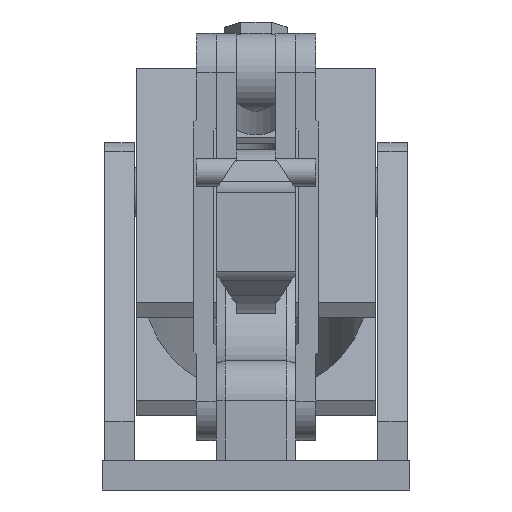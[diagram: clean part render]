
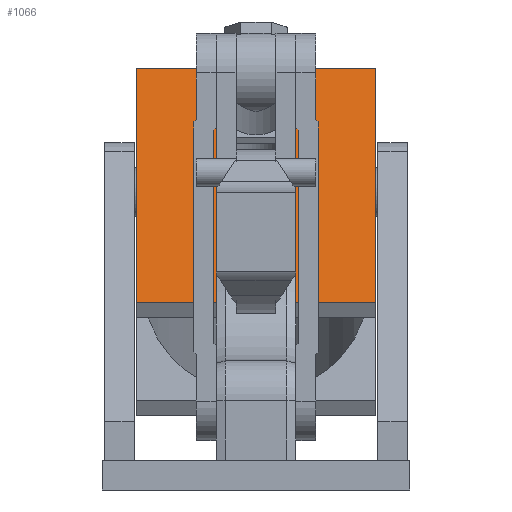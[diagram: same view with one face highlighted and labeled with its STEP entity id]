
A CAD part, left-side view. The second image highlights one B-rep face of the part: STEP entity #1066.
In plain terms, the highlighted planar face has unit normal (-0.981, 0, 0.194).
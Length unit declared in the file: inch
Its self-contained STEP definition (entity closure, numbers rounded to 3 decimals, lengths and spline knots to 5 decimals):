
#241=LINE('',#5551,#554);
#242=LINE('',#5554,#555);
#243=LINE('',#5556,#556);
#244=LINE('',#5558,#557);
#554=VECTOR('',#4535,1.);
#555=VECTOR('',#4536,1.);
#556=VECTOR('',#4537,1.);
#557=VECTOR('',#4538,1.);
#900=FACE_BOUND('',#1645,.T.);
#1066=ADVANCED_FACE('',(#1405,#900),#1242,.F.);
#1242=PLANE('',#3870);
#1405=FACE_OUTER_BOUND('',#1644,.T.);
#1644=EDGE_LOOP('',(#2211,#2212,#2213,#2214));
#1645=EDGE_LOOP('',(#2215));
#2211=ORIENTED_EDGE('',*,*,#3281,.F.);
#2212=ORIENTED_EDGE('',*,*,#3282,.F.);
#2213=ORIENTED_EDGE('',*,*,#3283,.F.);
#2214=ORIENTED_EDGE('',*,*,#3284,.F.);
#2215=ORIENTED_EDGE('',*,*,#3285,.F.);
#2892=VERTEX_POINT('',#5552);
#2893=VERTEX_POINT('',#5553);
#2894=VERTEX_POINT('',#5555);
#2895=VERTEX_POINT('',#5557);
#2896=VERTEX_POINT('',#5560);
#3281=EDGE_CURVE('',#2892,#2893,#241,.T.);
#3282=EDGE_CURVE('',#2894,#2892,#242,.T.);
#3283=EDGE_CURVE('',#2895,#2894,#243,.T.);
#3284=EDGE_CURVE('',#2893,#2895,#244,.T.);
#3285=EDGE_CURVE('',#2896,#2896,#3623,.T.);
#3623=CIRCLE('',#3869,0.3125);
#3869=AXIS2_PLACEMENT_3D('',#5559,#4539,#4540);
#3870=AXIS2_PLACEMENT_3D('',#5561,#4541,#4542);
#4535=DIRECTION('',(0.,-1.,0.));
#4536=DIRECTION('',(0.194,0.,0.981));
#4537=DIRECTION('',(0.,1.,0.));
#4538=DIRECTION('',(-0.194,0.,-0.981));
#4539=DIRECTION('',(-0.981,0.,0.194));
#4540=DIRECTION('',(0.,-1.,0.));
#4541=DIRECTION('',(0.981,0.,-0.194));
#4542=DIRECTION('',(0.,1.,0.));
#5551=CARTESIAN_POINT('',(7.60706,2.87502,5.30737));
#5552=CARTESIAN_POINT('',(7.60706,2.87502,5.30737));
#5553=CARTESIAN_POINT('',(7.60706,-0.12498,5.30737));
#5554=CARTESIAN_POINT('',(7.02469,2.87502,2.36444));
#5555=CARTESIAN_POINT('',(7.02469,2.87502,2.36444));
#5556=CARTESIAN_POINT('',(7.02469,-0.12498,2.36444));
#5557=CARTESIAN_POINT('',(7.02469,-0.12498,2.36444));
#5558=CARTESIAN_POINT('',(7.60706,-0.12498,5.30737));
#5559=CARTESIAN_POINT('',(7.31588,1.37502,3.83591));
#5560=CARTESIAN_POINT('',(7.31588,1.06252,3.83591));
#5561=CARTESIAN_POINT('',(7.31588,1.37502,3.83591));
